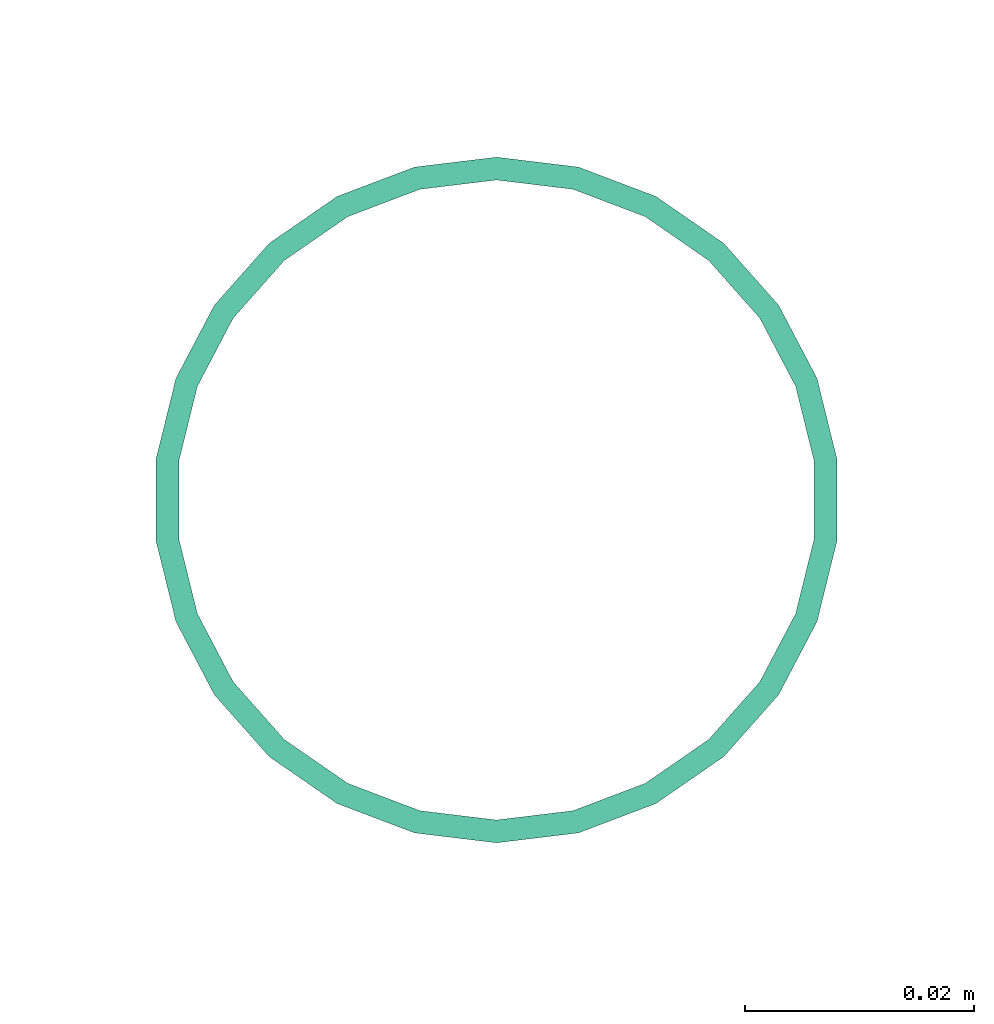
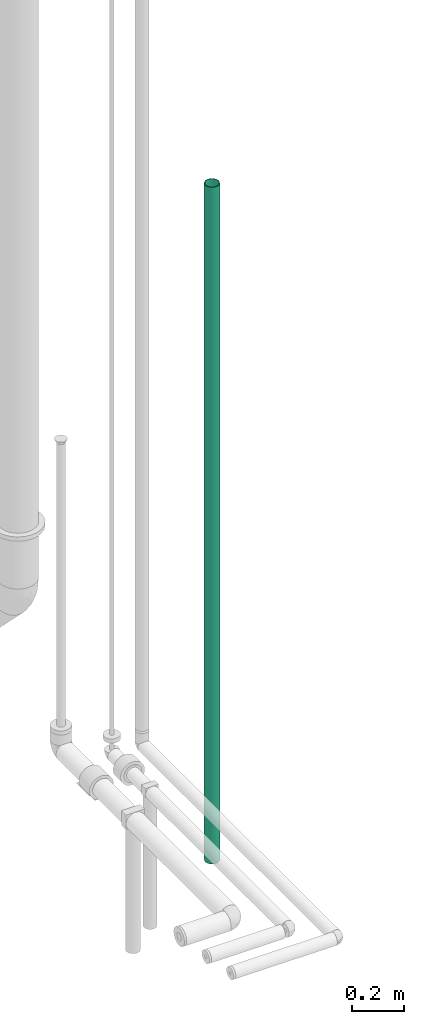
# One storey, part 19 of 78: 1 flow segment.
"""IFC2X3 building model written with IfcOpenShell, lengths in millimetres."""

from ifc_helpers import new_model, entity, si_unit, converted_unit, derived_unit, direction, frame, origin_with_axes, origin_2d_with_axis, place, context, subcontext, project, spatial, hollow_circle, extrude, source, transform, mapped, type_object, element, save


model = new_model("IFC2X3")

# Units and contexts
model_context = context("Model", 3, precision=0.01, world=frame((0.0, 4.29681676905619e-09, 0.0)), true_north=direction((4.01073788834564e-13, 1.0)))
plan_context = context("Plan", 3, precision=0.01, world=frame((0.0, 4.29681676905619e-09, 0.0)), true_north=direction((4.01073788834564e-13, 1.0)))
body_context = subcontext(model_context, "Body", "Model", "MODEL_VIEW")
ifc_project = project(units=[converted_unit("PLANEANGLEUNIT", "DEGREE", entity("IfcPositiveLengthMeasure", 0.0174532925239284), si_unit("PLANEANGLEUNIT", "RADIAN"), dimensions=[0, 0, 0, 0, 0, 0, 0]), si_unit("AREAUNIT", "SQUARE_METRE"), si_unit("LENGTHUNIT", "METRE", prefix="MILLI"), si_unit("MASSUNIT", "GRAM", prefix="KILO"), si_unit("POWERUNIT", "WATT"), si_unit("PRESSUREUNIT", "PASCAL"), si_unit("FORCEUNIT", "NEWTON", prefix="KILO"), si_unit("ELECTRICVOLTAGEUNIT", "VOLT"), si_unit("ELECTRICCURRENTUNIT", "AMPERE"), si_unit("THERMODYNAMICTEMPERATUREUNIT", "DEGREE_CELSIUS"), si_unit("TIMEUNIT", "SECOND"), si_unit("VOLUMEUNIT", "CUBIC_METRE"), derived_unit("LINEARVELOCITYUNIT", [(si_unit("LENGTHUNIT", "METRE"), 1), (si_unit("TIMEUNIT", "SECOND"), -1)]), derived_unit("VOLUMETRICFLOWRATEUNIT", [(si_unit("VOLUMEUNIT", "CUBIC_METRE"), 1), (si_unit("TIMEUNIT", "SECOND"), -1)]), derived_unit("THERMALTRANSMITTANCEUNIT", [(si_unit("POWERUNIT", "WATT"), 1), (si_unit("THERMODYNAMICTEMPERATUREUNIT", "KELVIN"), -1), (si_unit("AREAUNIT", "SQUARE_METRE"), -1)]), derived_unit("SOUNDPRESSUREUNIT", [(si_unit("PRESSUREUNIT", "PASCAL"), 1)])], contexts=[model_context, plan_context])

# Site, building, storey
site_placement = place(None, frame((0.0, -4.29681676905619e-09, 0.0), z_axis=(0.0, 0.0, 1.0), x_axis=(1.0, 0.0, 0.0)))
site = spatial("IfcSite", under=ifc_project, at=site_placement, Name="ENGM", CompositionType="ELEMENT")
building_placement = place(site_placement, frame((0.0, 4.29681676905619e-09, 0.0), z_axis=(0.0, 0.0, 1.0), x_axis=(1.0, 0.0, 0.0)))
building = spatial("IfcBuilding", under=site, at=building_placement, Name="TH", CompositionType="ELEMENT")
storey_placement = place(building_placement, frame((0.0, 0.0, 205200.0), z_axis=(0.0, 0.0, 1.0), x_axis=(1.0, 0.0, 0.0)))
storey = spatial("IfcBuildingStorey", under=building, at=storey_placement, Name="Nivå D + 1,2 m", CompositionType="ELEMENT", Elevation=205200.0)

# Flow segment
pipe_segment_type = type_object("IfcPipeSegmentType", Name="SSt", PredefinedType="RIGIDSEGMENT")
shared_shape = source(origin_with_axes(), body_context, "Body", "SweptSolid", [
    extrude(hollow_circle(Radius=30.0, WallThickness=2.0, at=origin_2d_with_axis()), frame((0.0, 0.0, 0.0), z_axis=(1.0, 0.0, 0.0), x_axis=(0.0, 1.0, 0.0)), (0.0, 0.0, 1.0), 3186.0),
])
flow_segment_placement = place(storey_placement, frame((895949.63445, 478520.15386, 3814.0), z_axis=(1.0, 0.0, 0.0), x_axis=(0.0, 0.0, 1.0)))
element("IfcFlowSegment", 1, at=flow_segment_placement, inside=storey, type_object=pipe_segment_type, Name="SSt", context=body_context, shape_type="MappedRepresentation", body=[
    mapped(shared_shape, transform((0.0, 0.0, 0.0), scale=1.0)),
])

save(model, "model.ifc")
